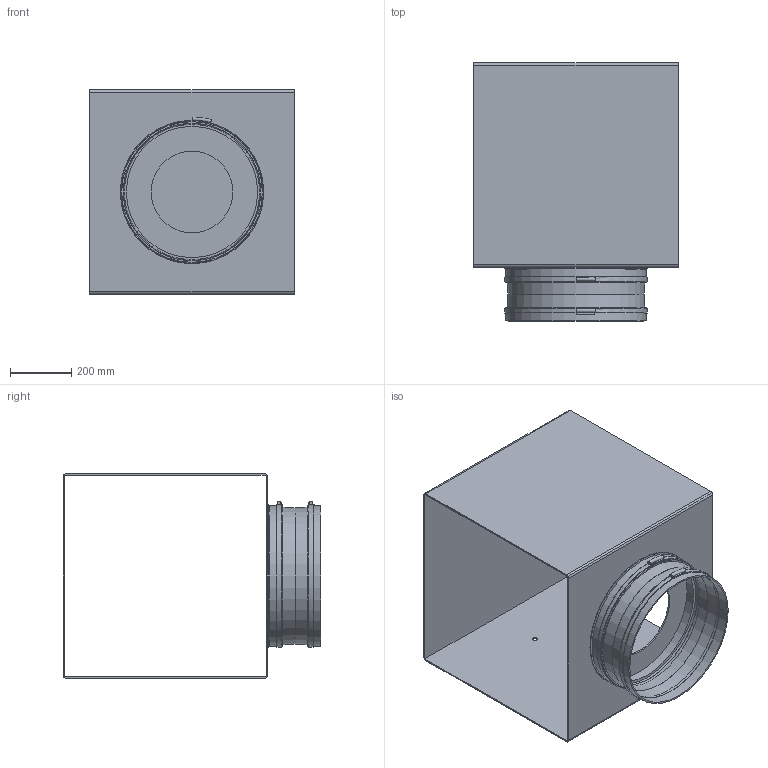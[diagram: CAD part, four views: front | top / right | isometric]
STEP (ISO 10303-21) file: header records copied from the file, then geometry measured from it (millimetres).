
FILE_DESCRIPTION(/* description */ (''),/* implementation_level */ '2;1');
FILE_NAME(/* name */ 'Z:\Output\GBW 450_4 T 120_DoubleRadial-05774-001.stp',/* time_stamp */ '2017-05-09T00:04:22+02:00',/* author */ ('jayeshpanchal'),/* organization */ (''),/* preprocessor_version */ 'ST-DEVELOPER v16.5',/* originating_system */ 'Autodesk Inventor 2017',/* authorisation */ '');
FILE_SCHEMA (('AUTOMOTIVE_DESIGN { 1 0 10303 214 3 1 1 }'));
Length unit declared in the file: millimetre
Products named in the file (1): GB-3
Bounding box: 670 x 845 x 670 mm (x, y, z)
Volume: 9917942.7 mm3; surface area: 4153521.1 mm2
Topology: 4 solids, 4 shells, 63 faces, 129 edges, 83 vertices
Faces by surface type: plane 31, cylinder 26, cone 4, torus 2
Full cylindrical faces by diameter (mm): 15 x2, 268 x1, 430 x1, 440 x1, 450 x1, 451 x4, 460 x1, 461 x4, 467 x2, 470 x1
Entity records: 1587 total; most frequent: DIRECTION 292, CARTESIAN_POINT 248, ORIENTED_EDGE 212, AXIS2_PLACEMENT_3D 124, EDGE_LOOP 108, EDGE_CURVE 104, VERTEX_POINT 80, FACE_OUTER_BOUND 63
